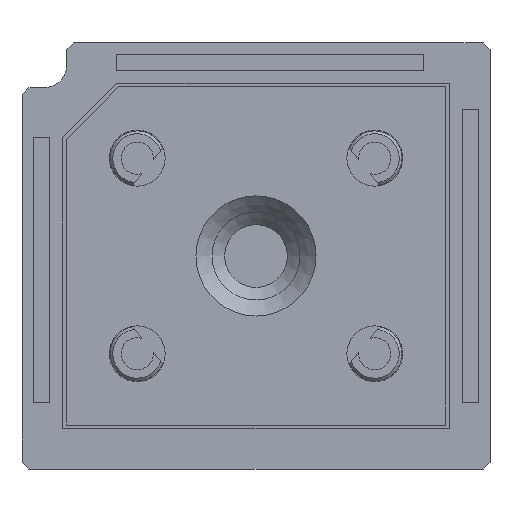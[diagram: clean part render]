
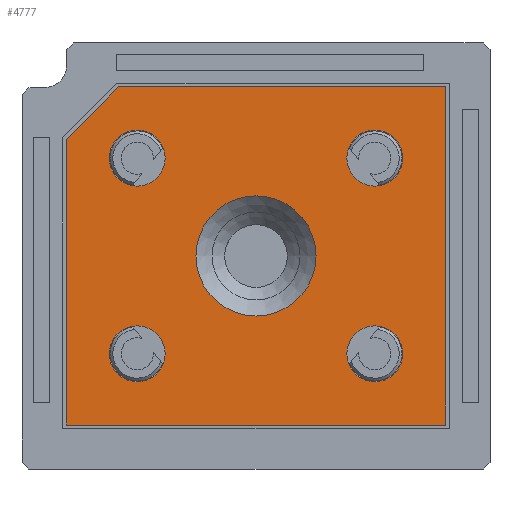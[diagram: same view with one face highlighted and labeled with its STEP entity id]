
A CAD part, top view. The second image highlights one B-rep face of the part: STEP entity #4777.
In plain terms, the highlighted planar face has unit normal (0, 0, 1).
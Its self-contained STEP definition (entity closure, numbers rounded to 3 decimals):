
#220=PLANE('',#5277);
#393=LINE('',#10651,#573);
#394=LINE('',#10654,#574);
#395=LINE('',#10656,#575);
#396=LINE('',#10658,#576);
#397=LINE('',#10660,#577);
#573=VECTOR('',#6368,1000.);
#574=VECTOR('',#6369,1000.);
#575=VECTOR('',#6370,1000.);
#576=VECTOR('',#6371,1000.);
#577=VECTOR('',#6372,1000.);
#2300=ORIENTED_EDGE('',*,*,#3034,.T.);
#2301=ORIENTED_EDGE('',*,*,#3035,.T.);
#2302=ORIENTED_EDGE('',*,*,#3036,.T.);
#2303=ORIENTED_EDGE('',*,*,#3037,.T.);
#2304=ORIENTED_EDGE('',*,*,#3038,.T.);
#2305=ORIENTED_EDGE('',*,*,#3025,.F.);
#2306=ORIENTED_EDGE('',*,*,#3027,.F.);
#2307=ORIENTED_EDGE('',*,*,#3029,.F.);
#2308=ORIENTED_EDGE('',*,*,#3031,.F.);
#2309=ORIENTED_EDGE('',*,*,#3033,.T.);
#3025=EDGE_CURVE('',#3459,#3459,#3748,.T.);
#3027=EDGE_CURVE('',#3461,#3461,#3750,.T.);
#3029=EDGE_CURVE('',#3463,#3463,#3752,.T.);
#3031=EDGE_CURVE('',#3465,#3465,#3754,.T.);
#3033=EDGE_CURVE('',#3467,#3467,#3756,.T.);
#3034=EDGE_CURVE('',#3468,#3469,#393,.T.);
#3035=EDGE_CURVE('',#3469,#3470,#394,.T.);
#3036=EDGE_CURVE('',#3470,#3471,#395,.T.);
#3037=EDGE_CURVE('',#3471,#3472,#396,.T.);
#3038=EDGE_CURVE('',#3472,#3468,#397,.T.);
#3459=VERTEX_POINT('',#10629);
#3461=VERTEX_POINT('',#10634);
#3463=VERTEX_POINT('',#10639);
#3465=VERTEX_POINT('',#10644);
#3467=VERTEX_POINT('',#10649);
#3468=VERTEX_POINT('',#10652);
#3469=VERTEX_POINT('',#10653);
#3470=VERTEX_POINT('',#10655);
#3471=VERTEX_POINT('',#10657);
#3472=VERTEX_POINT('',#10659);
#3748=CIRCLE('',#5264,2.);
#3750=CIRCLE('',#5267,2.);
#3752=CIRCLE('',#5270,2.);
#3754=CIRCLE('',#5273,2.);
#3756=CIRCLE('',#5276,4.3);
#4088=EDGE_LOOP('',(#2300,#2301,#2302,#2303,#2304));
#4089=EDGE_LOOP('',(#2305));
#4090=EDGE_LOOP('',(#2306));
#4091=EDGE_LOOP('',(#2307));
#4092=EDGE_LOOP('',(#2308));
#4093=EDGE_LOOP('',(#2309));
#4438=FACE_BOUND('',#4088,.T.);
#4439=FACE_BOUND('',#4089,.T.);
#4440=FACE_BOUND('',#4090,.T.);
#4441=FACE_BOUND('',#4091,.T.);
#4442=FACE_BOUND('',#4092,.T.);
#4443=FACE_BOUND('',#4093,.T.);
#4777=ADVANCED_FACE('',(#4438,#4439,#4440,#4441,#4442,#4443),#220,.T.);
#5264=AXIS2_PLACEMENT_3D('',#10628,#6340,#6341);
#5267=AXIS2_PLACEMENT_3D('',#10633,#6346,#6347);
#5270=AXIS2_PLACEMENT_3D('',#10638,#6352,#6353);
#5273=AXIS2_PLACEMENT_3D('',#10643,#6358,#6359);
#5276=AXIS2_PLACEMENT_3D('',#10648,#6364,#6365);
#5277=AXIS2_PLACEMENT_3D('',#10650,#6366,#6367);
#6340=DIRECTION('',(0.,0.,1.));
#6341=DIRECTION('',(1.,0.,0.));
#6346=DIRECTION('',(0.,0.,1.));
#6347=DIRECTION('',(1.,0.,0.));
#6352=DIRECTION('',(0.,0.,1.));
#6353=DIRECTION('',(1.,0.,0.));
#6358=DIRECTION('',(0.,0.,1.));
#6359=DIRECTION('',(1.,0.,0.));
#6364=DIRECTION('',(0.,0.,-1.));
#6365=DIRECTION('',(1.,0.,0.));
#6366=DIRECTION('',(0.,0.,1.));
#6367=DIRECTION('',(1.,0.,0.));
#6368=DIRECTION('',(1.,0.,0.));
#6369=DIRECTION('',(0.,1.,0.));
#6370=DIRECTION('',(-1.,0.,0.));
#6371=DIRECTION('',(-0.707,-0.707,0.));
#6372=DIRECTION('',(0.,-1.,0.));
#10628=CARTESIAN_POINT('',(-8.5,-7.,2.));
#10629=CARTESIAN_POINT('',(-6.5,-7.,2.));
#10633=CARTESIAN_POINT('',(8.5,-7.,2.));
#10634=CARTESIAN_POINT('',(10.5,-7.,2.));
#10638=CARTESIAN_POINT('',(8.5,7.,2.));
#10639=CARTESIAN_POINT('',(10.5,7.,2.));
#10643=CARTESIAN_POINT('',(-8.5,7.,2.));
#10644=CARTESIAN_POINT('',(-6.5,7.,2.));
#10648=CARTESIAN_POINT('',(0.,0.,2.));
#10649=CARTESIAN_POINT('',(4.3,0.,2.));
#10650=CARTESIAN_POINT('',(13.6,-12.1,2.));
#10651=CARTESIAN_POINT('',(0.,-12.1,2.));
#10652=CARTESIAN_POINT('',(-13.6,-12.1,2.));
#10653=CARTESIAN_POINT('',(13.6,-12.1,2.));
#10654=CARTESIAN_POINT('',(13.6,-12.1,2.));
#10655=CARTESIAN_POINT('',(13.6,12.1,2.));
#10656=CARTESIAN_POINT('',(-9.85,12.1,2.));
#10657=CARTESIAN_POINT('',(-9.85,12.1,2.));
#10658=CARTESIAN_POINT('',(-13.6,8.35,2.));
#10659=CARTESIAN_POINT('',(-13.6,8.35,2.));
#10660=CARTESIAN_POINT('',(-13.6,-12.1,2.));
